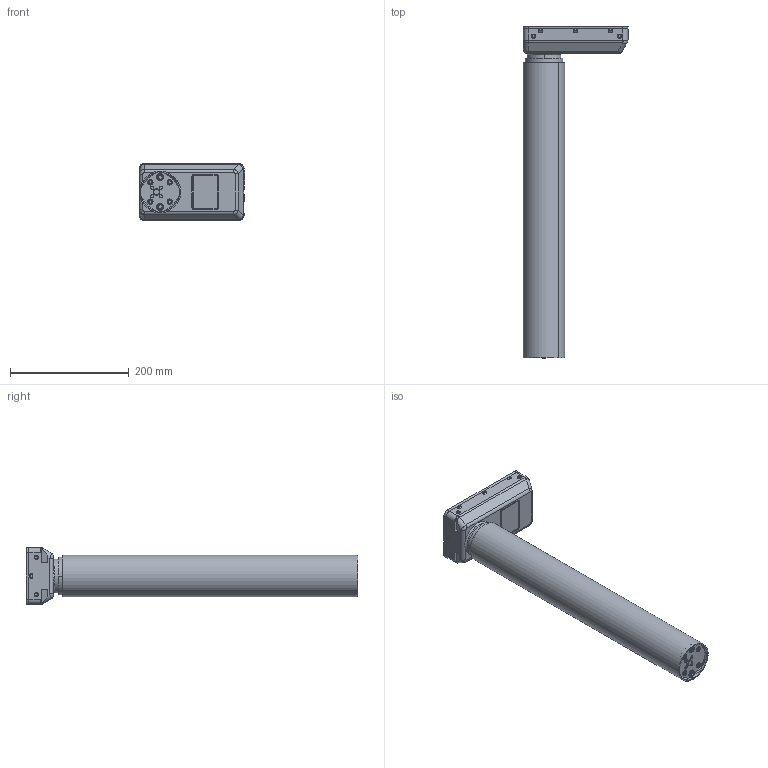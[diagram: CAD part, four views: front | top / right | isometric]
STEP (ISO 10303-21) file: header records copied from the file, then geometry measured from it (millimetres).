
FILE_DESCRIPTION((''),'2;1');
FILE_NAME('DL11_PLUS_ASM','2020-11-18T10:08:27',('tot'),(''),'CREO PARAMETRIC BY PTC INC, 2019344','CREO PARAMETRIC BY PTC INC, 2019344','');
FILE_SCHEMA(('AUTOMOTIVE_DESIGN { 1 0 10303 214 1 1 1 1 }'));
Length unit declared in the file: millimetre
Products named in the file (4): DL11_OP_PLUS; DL11_MP_PLUS; STANDARD_MOTORHUS_DL11_PLUS; DL11_PLUS_ASM
Assembly tree (3 placements, depth 2):
  DL11_PLUS_ASM
    DL11_OP_PLUS
    DL11_MP_PLUS
    STANDARD_MOTORHUS_DL11_PLUS
Bounding box: 178.6 x 560 x 96.5 mm (x, y, z)
Volume: 4715464.4 mm3; surface area: 323463.5 mm2
Topology: 3 solids, 3 shells, 764 faces, 2033 edges, 1298 vertices
Faces by surface type: plane 320, cylinder 302, torus 74, bspline 44, sphere 14, cone 10
Entity records: 30099 total; most frequent: CARTESIAN_POINT 7575, ORIENTED_EDGE 4042, DIRECTION 3932, EDGE_CURVE 2021, AXIS2_PLACEMENT_3D 1455, VERTEX_POINT 1298, VECTOR 1022, LINE 1022
